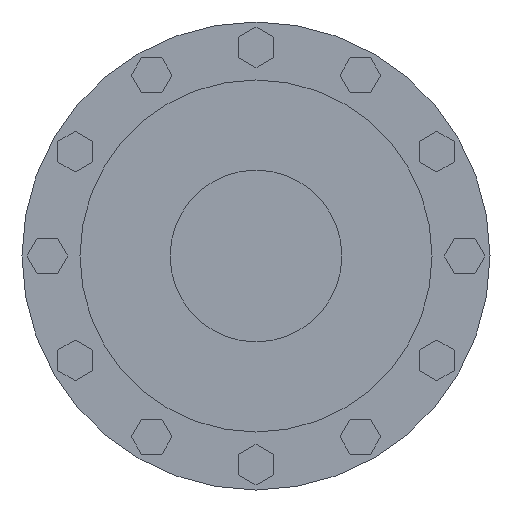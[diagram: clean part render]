
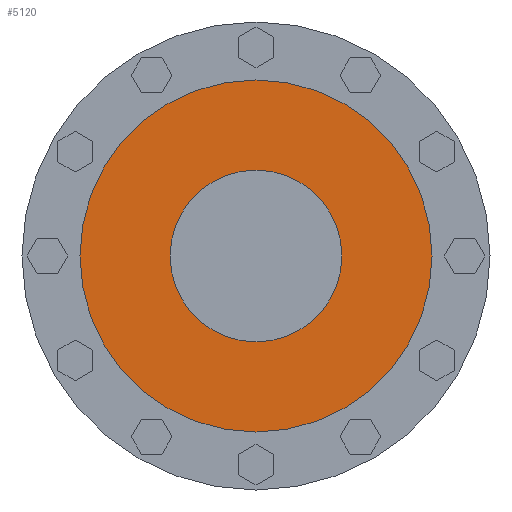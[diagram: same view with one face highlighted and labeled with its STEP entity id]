
A CAD part, left-side view. The second image highlights one B-rep face of the part: STEP entity #5120.
In plain terms, the highlighted planar face has unit normal (-1, 0, 0).
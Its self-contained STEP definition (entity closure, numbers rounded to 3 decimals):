
#6=CARTESIAN_POINT('',(-805.,0.,0.));
#7=DIRECTION('',(1.,0.,0.));
#8=DIRECTION('',(0.,1.,0.));
#9=AXIS2_PLACEMENT_3D('',#6,#7,#8);
#1097=CARTESIAN_POINT('',(-805.,0.,0.));
#1098=DIRECTION('',(-1.,0.,0.));
#1099=DIRECTION('',(0.,1.,0.));
#1100=AXIS2_PLACEMENT_3D('',#1097,#1098,#1099);
#1102=CARTESIAN_POINT('',(-805.,0.,0.));
#1103=DIRECTION('',(1.,0.,0.));
#1104=DIRECTION('',(0.,1.,0.));
#1105=AXIS2_PLACEMENT_3D('',#1102,#1103,#1104);
#1116=CARTESIAN_POINT('',(-805.,0.,0.));
#1117=DIRECTION('',(-1.,0.,0.));
#1118=DIRECTION('',(0.,1.,0.));
#1119=AXIS2_PLACEMENT_3D('',#1116,#1117,#1118);
#3200=CARTESIAN_POINT('',(-805.,205.,0.));
#3202=VERTEX_POINT('',#3200);
#3214=CARTESIAN_POINT('',(-805.,-205.,0.));
#3216=VERTEX_POINT('',#3214);
#3237=CARTESIAN_POINT('',(-805.,100.,0.));
#3238=VERTEX_POINT('',#3237);
#3239=CARTESIAN_POINT('',(-805.,-100.,0.));
#3240=VERTEX_POINT('',#3239);
#5106=CARTESIAN_POINT('',(-805.,0.,0.));
#5107=DIRECTION('',(1.,0.,0.));
#5108=DIRECTION('',(0.,-1.,0.));
#5109=AXIS2_PLACEMENT_3D('',#5106,#5107,#5108);
#5110=PLANE('',#5109);
#5111=ORIENTED_EDGE('',*,*,#5099,.F.);
#5112=ORIENTED_EDGE('',*,*,#5088,.T.);
#5113=EDGE_LOOP('',(#5111,#5112));
#5114=FACE_OUTER_BOUND('',#5113,.F.);
#5115=ORIENTED_EDGE('',*,*,#4230,.F.);
#5117=ORIENTED_EDGE('',*,*,#5116,.T.);
#5118=EDGE_LOOP('',(#5115,#5117));
#5119=FACE_BOUND('',#5118,.F.);
#5120=ADVANCED_FACE('',(#5114,#5119),#5110,.F.);
#10=CIRCLE('',#9,100.);
#1101=CIRCLE('',#1100,205.);
#1106=CIRCLE('',#1105,205.);
#1120=CIRCLE('',#1119,100.);
#4230=EDGE_CURVE('',#3238,#3240,#10,.T.);
#5088=EDGE_CURVE('',#3202,#3216,#1106,.T.);
#5099=EDGE_CURVE('',#3202,#3216,#1101,.T.);
#5116=EDGE_CURVE('',#3238,#3240,#1120,.T.);
